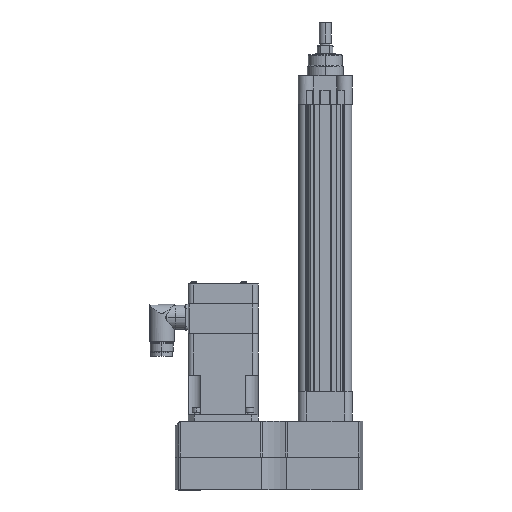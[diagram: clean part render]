
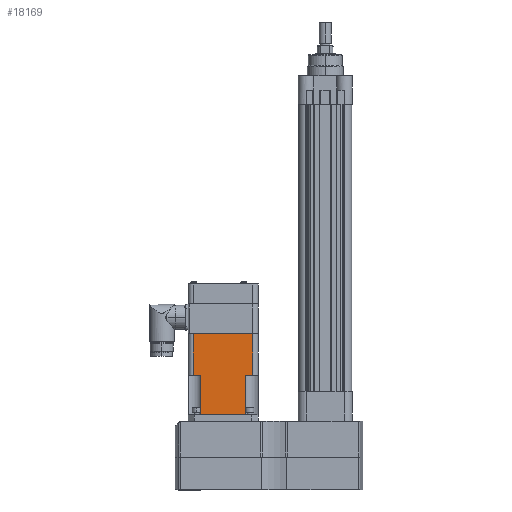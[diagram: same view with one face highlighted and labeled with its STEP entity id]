
A CAD part, left-side view. The second image highlights one B-rep face of the part: STEP entity #18169.
In plain terms, the highlighted planar face has unit normal (-1, 0, 0) as drawn and (0, 0, -1) by its records, which use the part's own axes.
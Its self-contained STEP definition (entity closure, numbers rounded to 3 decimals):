
#208 = CARTESIAN_POINT ( 'NONE',  ( -6.401, 22.476, -35.052 ) ) ;
#3031 = LINE ( 'NONE', #20243, #12246 ) ;
#3598 = ORIENTED_EDGE ( 'NONE', *, *, #24675, .T. ) ;
#3720 = AXIS2_PLACEMENT_3D ( 'NONE', #25210, #35703, #14884 ) ;
#4205 = DIRECTION ( 'NONE',  ( 0., -1., 0. ) ) ;
#4461 = PLANE ( 'NONE',  #3720 ) ;
#5072 = DIRECTION ( 'NONE',  ( 1., 0., 0. ) ) ;
#5569 = VERTEX_POINT ( 'NONE', #39185 ) ;
#5902 = CARTESIAN_POINT ( 'NONE',  ( -45.898, -35.052, -35.052 ) ) ;
#9357 = DIRECTION ( 'NONE',  ( -1., 0., 0. ) ) ;
#10171 = LINE ( 'NONE', #32089, #19380 ) ;
#12246 = VECTOR ( 'NONE', #16568, 1000. ) ;
#13375 = DIRECTION ( 'NONE',  ( -1., 0., 0. ) ) ;
#13832 = CARTESIAN_POINT ( 'NONE',  ( -87.884, -29.972, -35.052 ) ) ;
#14476 = CARTESIAN_POINT ( 'NONE',  ( -45.898, 22.476, -35.052 ) ) ;
#14643 = VERTEX_POINT ( 'NONE', #208 ) ;
#14884 = DIRECTION ( 'NONE',  ( 1., 0., 0. ) ) ;
#16351 = LINE ( 'NONE', #34163, #34838 ) ;
#16568 = DIRECTION ( 'NONE',  ( 0., -1., 0. ) ) ;
#17512 = EDGE_CURVE ( 'NONE', #34596, #43776, #27523, .T. ) ;
#17856 = ORIENTED_EDGE ( 'NONE', *, *, #17512, .T. ) ;
#18169 = ADVANCED_FACE ( 'NONE', ( #42674 ), #4461, .F. ) ;
#18305 = VECTOR ( 'NONE', #4205, 1000. ) ;
#18709 = CARTESIAN_POINT ( 'NONE',  ( -87.884, 29.972, -35.052 ) ) ;
#19380 = VECTOR ( 'NONE', #35572, 1000. ) ;
#19635 = LINE ( 'NONE', #33446, #36996 ) ;
#20243 = CARTESIAN_POINT ( 'NONE',  ( -87.884, -35.052, -35.052 ) ) ;
#20917 = CARTESIAN_POINT ( 'NONE',  ( -45.898, 29.972, -35.052 ) ) ;
#20938 = VERTEX_POINT ( 'NONE', #13832 ) ;
#21433 = VERTEX_POINT ( 'NONE', #34431 ) ;
#21572 = ORIENTED_EDGE ( 'NONE', *, *, #40804, .F. ) ;
#21726 = ORIENTED_EDGE ( 'NONE', *, *, #27298, .T. ) ;
#21755 = LINE ( 'NONE', #5902, #30984 ) ;
#24622 = EDGE_LOOP ( 'NONE', ( #21726, #40023, #31841, #3598, #17856, #21572, #41967, #26345 ) ) ;
#24675 = EDGE_CURVE ( 'NONE', #35375, #34596, #32316, .T. ) ;
#24842 = LINE ( 'NONE', #25817, #44381 ) ;
#25210 = CARTESIAN_POINT ( 'NONE',  ( -87.884, -35.052, -35.052 ) ) ;
#25422 = CARTESIAN_POINT ( 'NONE',  ( -45.898, -22.476, -35.052 ) ) ;
#25817 = CARTESIAN_POINT ( 'NONE',  ( -45.898, -22.476, -35.052 ) ) ;
#26345 = ORIENTED_EDGE ( 'NONE', *, *, #35389, .F. ) ;
#26347 = CARTESIAN_POINT ( 'NONE',  ( -87.884, 29.972, -35.052 ) ) ;
#26644 = DIRECTION ( 'NONE',  ( 0., -1., 0. ) ) ;
#27298 = EDGE_CURVE ( 'NONE', #34766, #5569, #21755, .T. ) ;
#27523 = LINE ( 'NONE', #28307, #18305 ) ;
#28307 = CARTESIAN_POINT ( 'NONE',  ( -45.898, -35.052, -35.052 ) ) ;
#29851 = DIRECTION ( 'NONE',  ( 1., 0., 0. ) ) ;
#30113 = EDGE_CURVE ( 'NONE', #35375, #20938, #3031, .T. ) ;
#30984 = VECTOR ( 'NONE', #26644, 1000. ) ;
#31771 = EDGE_CURVE ( 'NONE', #5569, #20938, #19635, .T. ) ;
#31841 = ORIENTED_EDGE ( 'NONE', *, *, #30113, .F. ) ;
#32089 = CARTESIAN_POINT ( 'NONE',  ( -6.401, -35.052, -35.052 ) ) ;
#32316 = LINE ( 'NONE', #26347, #40421 ) ;
#33446 = CARTESIAN_POINT ( 'NONE',  ( -87.884, -29.972, -35.052 ) ) ;
#34163 = CARTESIAN_POINT ( 'NONE',  ( -45.898, 22.476, -35.052 ) ) ;
#34431 = CARTESIAN_POINT ( 'NONE',  ( -6.401, -22.476, -35.052 ) ) ;
#34596 = VERTEX_POINT ( 'NONE', #20917 ) ;
#34766 = VERTEX_POINT ( 'NONE', #25422 ) ;
#34838 = VECTOR ( 'NONE', #13375, 1000. ) ;
#35375 = VERTEX_POINT ( 'NONE', #18709 ) ;
#35389 = EDGE_CURVE ( 'NONE', #34766, #21433, #24842, .T. ) ;
#35572 = DIRECTION ( 'NONE',  ( 0., -1., 0. ) ) ;
#35703 = DIRECTION ( 'NONE',  ( 0., 0., 1. ) ) ;
#36996 = VECTOR ( 'NONE', #9357, 1000. ) ;
#39185 = CARTESIAN_POINT ( 'NONE',  ( -45.898, -29.972, -35.052 ) ) ;
#40023 = ORIENTED_EDGE ( 'NONE', *, *, #31771, .T. ) ;
#40421 = VECTOR ( 'NONE', #29851, 1000. ) ;
#40804 = EDGE_CURVE ( 'NONE', #14643, #43776, #16351, .T. ) ;
#41967 = ORIENTED_EDGE ( 'NONE', *, *, #43793, .T. ) ;
#42674 = FACE_OUTER_BOUND ( 'NONE', #24622, .T. ) ;
#43776 = VERTEX_POINT ( 'NONE', #14476 ) ;
#43793 = EDGE_CURVE ( 'NONE', #14643, #21433, #10171, .T. ) ;
#44381 = VECTOR ( 'NONE', #5072, 1000. ) ;
